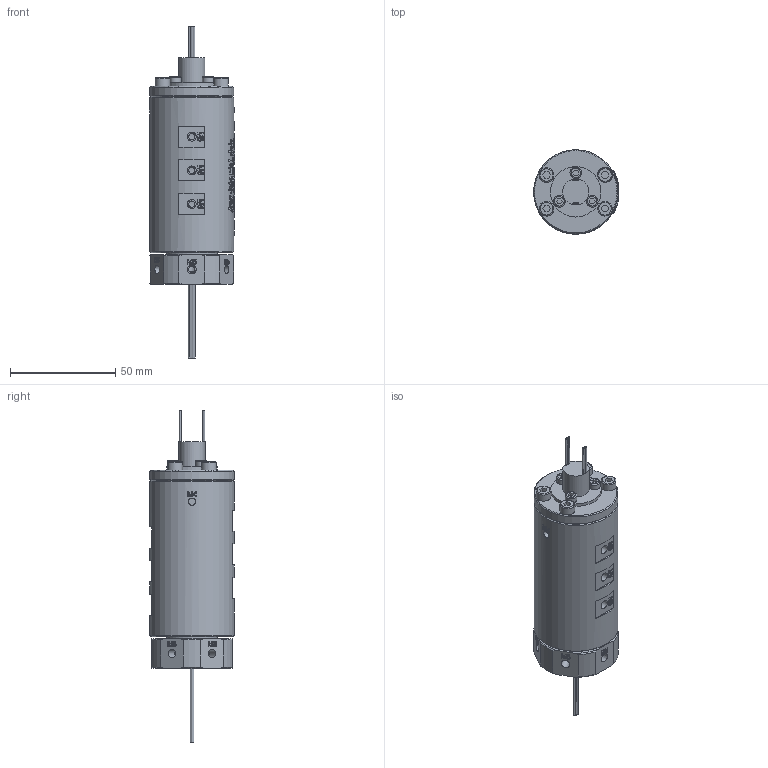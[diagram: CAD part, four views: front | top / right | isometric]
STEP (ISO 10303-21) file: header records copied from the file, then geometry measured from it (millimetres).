
FILE_DESCRIPTION(/* description */ (''),/* implementation_level */ '2;1');
FILE_NAME(/* name */ 'HQ06005-06M.stp',/* time_stamp */ '2025-09-01T15:56:14+08:00',/* author */ (''),/* organization */ (''),/* preprocessor_version */ 'ST-DEVELOPER v16.7',/* originating_system */ 'SIEMENS PLM Software NX 12.0',/* authorisation */ '');
FILE_SCHEMA (('AUTOMOTIVE_DESIGN { 1 0 10303 214 3 1 1 1 }'));
Products named in the file (1): AdmiB44865CDwd76
Bounding box: 40.6 x 40 x 157.5 mm (x, y, z)
Volume: 116616.8 mm3; surface area: 22017.2 mm2
Topology: 1 solids, 4 shells, 1378 faces, 3726 edges, 2481 vertices
Faces by surface type: plane 666, extrusion 521, cylinder 105, bspline 58, cone 21, torus 7
Full cylindrical faces by diameter (mm): 0.8 x12, 3 x15, 3.4 x9, 4 x6, 4.1 x6, 4.2 x18, 5.5 x3, 6 x1, 7 x4, 12.4 x1, 23.9 x1, 24 x1, 32 x1, 40 x2
Entity records: 50777 total; most frequent: CARTESIAN_POINT 21162, ORIENTED_EDGE 7134, DIRECTION 3763, EDGE_CURVE 3567, B_SPLINE_CURVE_WITH_KNOTS 2814, VERTEX_POINT 2424, EDGE_LOOP 1619, VECTOR 1427
